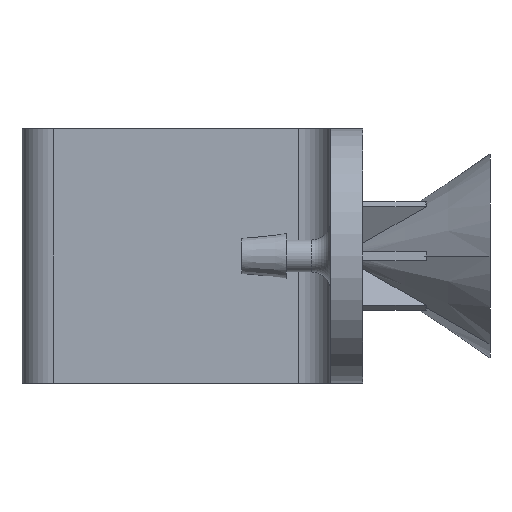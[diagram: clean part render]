
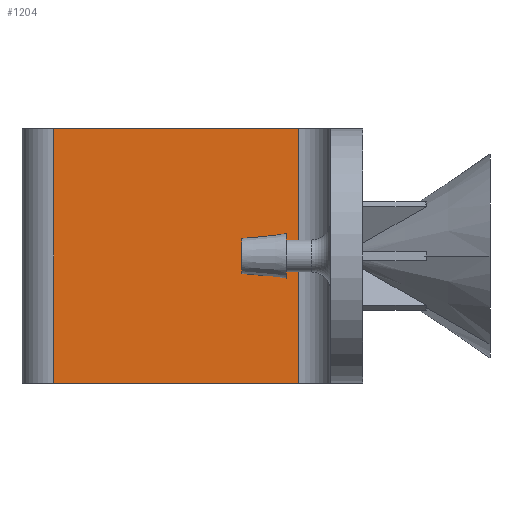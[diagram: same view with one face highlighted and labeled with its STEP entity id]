
A CAD part, left-side view. The second image highlights one B-rep face of the part: STEP entity #1204.
In plain terms, the highlighted planar face has unit normal (-1, 0, 0).
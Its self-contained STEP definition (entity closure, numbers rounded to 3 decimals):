
#96=PLANE('',#1332);
#166=FACE_OUTER_BOUND('',#241,.T.);
#241=EDGE_LOOP('',(#1128,#1129,#1130,#1131));
#283=LINE('',#1729,#409);
#287=LINE('',#1738,#413);
#295=LINE('',#1756,#421);
#318=LINE('',#1951,#444);
#409=VECTOR('',#1385,10.);
#413=VECTOR('',#1393,10.);
#421=VECTOR('',#1407,10.);
#444=VECTOR('',#1494,10.);
#542=VERTEX_POINT('',#1722);
#545=VERTEX_POINT('',#1727);
#548=VERTEX_POINT('',#1737);
#555=VERTEX_POINT('',#1754);
#648=EDGE_CURVE('',#545,#542,#283,.T.);
#652=EDGE_CURVE('',#542,#548,#287,.T.);
#662=EDGE_CURVE('',#548,#555,#295,.T.);
#702=EDGE_CURVE('',#545,#555,#318,.T.);
#1128=ORIENTED_EDGE('',*,*,#648,.F.);
#1129=ORIENTED_EDGE('',*,*,#702,.T.);
#1130=ORIENTED_EDGE('',*,*,#662,.F.);
#1131=ORIENTED_EDGE('',*,*,#652,.F.);
#1204=ADVANCED_FACE('',(#166),#96,.T.);
#1332=AXIS2_PLACEMENT_3D('',#2131,#1675,#1676);
#1385=DIRECTION('',(0.,0.,1.));
#1393=DIRECTION('',(0.,-1.,0.));
#1407=DIRECTION('',(0.,0.,-1.));
#1494=DIRECTION('',(0.,-1.,0.));
#1675=DIRECTION('center_axis',(-1.,0.,0.));
#1676=DIRECTION('ref_axis',(0.,-1.,0.));
#1722=CARTESIAN_POINT('',(0.,21.75,40.));
#1727=CARTESIAN_POINT('',(0.,21.75,0.));
#1729=CARTESIAN_POINT('',(0.,21.75,0.));
#1737=CARTESIAN_POINT('',(0.,-16.75,40.));
#1738=CARTESIAN_POINT('',(0.,26.75,40.));
#1754=CARTESIAN_POINT('',(0.,-16.75,0.));
#1756=CARTESIAN_POINT('',(0.,-16.75,0.));
#1951=CARTESIAN_POINT('',(0.,26.75,0.));
#2131=CARTESIAN_POINT('Origin',(0.,26.75,0.));
